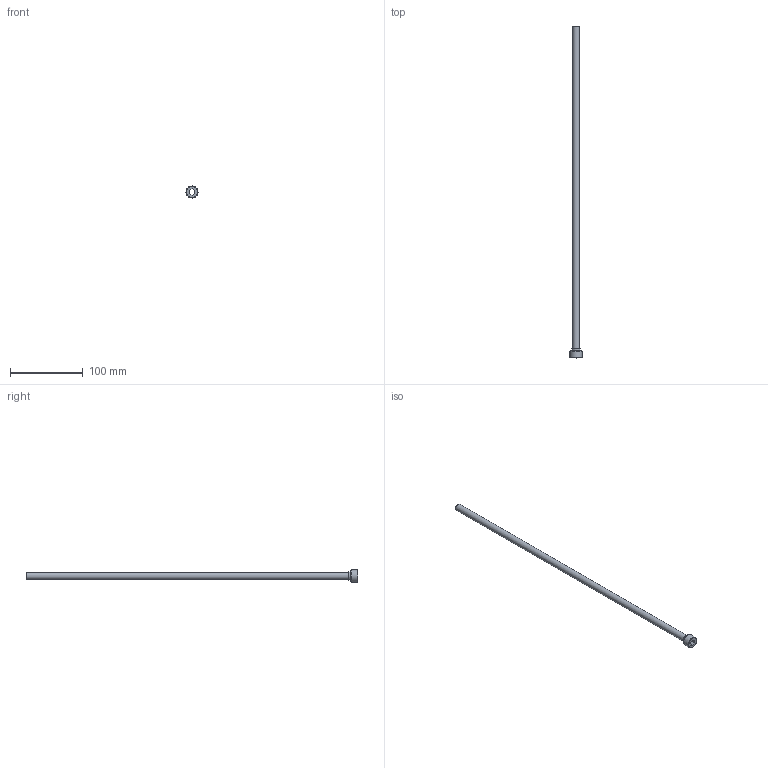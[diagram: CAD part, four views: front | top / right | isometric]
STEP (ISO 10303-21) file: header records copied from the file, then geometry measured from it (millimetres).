
FILE_DESCRIPTION(/* description */ (''),/* implementation_level */ '2;1');
FILE_NAME(/* name */ 'C:/Users/drich/Desktop/PT38-375-18 v1.step',/* time_stamp */ '2019-12-27T15:55:46-06:00',/* author */ (''),/* organization */ (''),/* preprocessor_version */ 'ST-DEVELOPER v18',/* originating_system */ 'Autodesk Translation Framework v8.12.0.6',/* authorisation */ '');
FILE_SCHEMA (('AUTOMOTIVE_DESIGN { 1 0 10303 214 3 1 1 }'));
Length unit declared in the file: inch
Products named in the file (1): PT38-375-18
Bounding box: 16.54 x 457.2 x 16.54 mm (x, y, z)
Volume: 7208.9 mm3; surface area: 26563.7 mm2
Topology: 1 solids, 1 shells, 30 faces, 71 edges, 45 vertices
Faces by surface type: plane 22, cylinder 4, torus 2, cone 2
Full cylindrical faces by diameter (mm): 8.636 x1, 9.5 x1, 11.938 x1, 16.537 x1
Entity records: 913 total; most frequent: DIRECTION 168, CARTESIAN_POINT 147, ORIENTED_EDGE 142, EDGE_CURVE 71, AXIS2_PLACEMENT_3D 66, VERTEX_POINT 45, LINE 36, VECTOR 36
